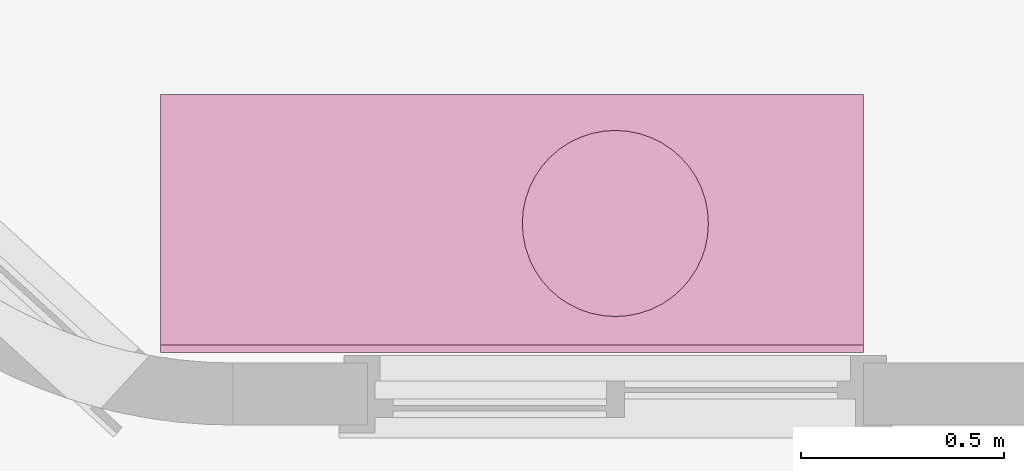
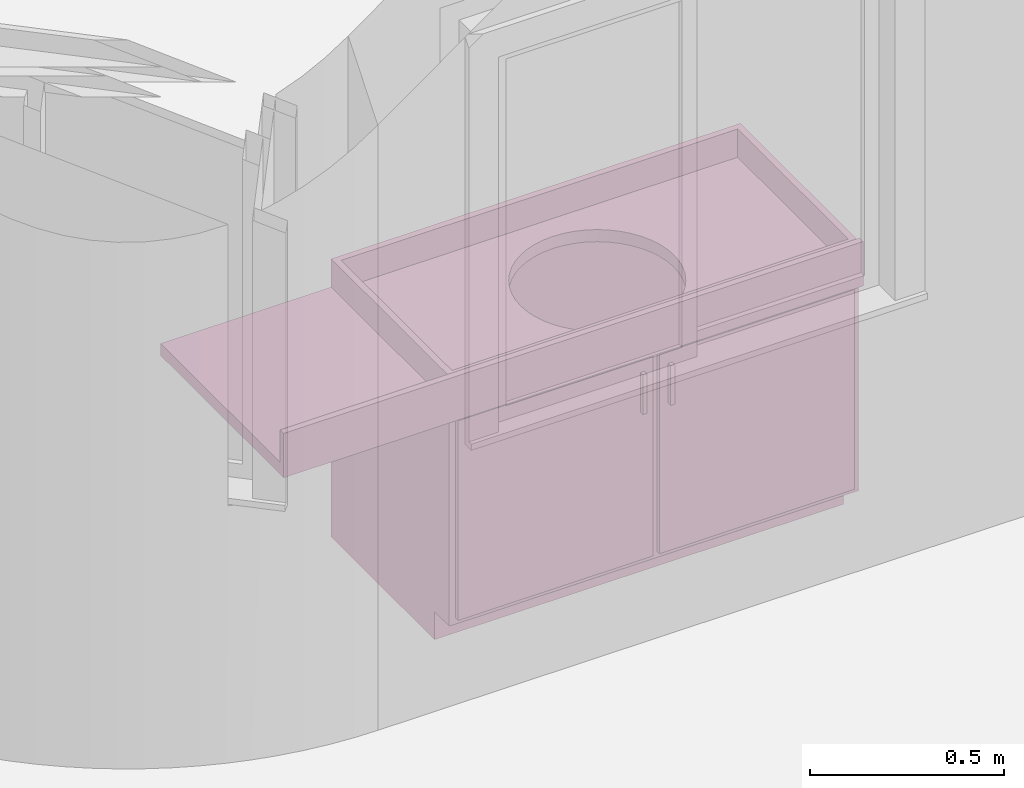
# One storey, part 21 of 28: 2 furnishings, 1 opening.
"""IFC2X3 building model written with IfcOpenShell, lengths in feet."""

from ifc_helpers import new_model, entity, si_unit, converted_unit, derived_unit, direction, frame, frame_2d, origin, place, context, subcontext, project, spatial, polyline, circle, outline, extrude, faceted_brep, source, transform, mapped, material, material_list, type_object, type_shapes, element, save


model = new_model("IFC2X3")

# Units and contexts
model_context = context("Model", 3, precision=0.0001, world=origin(), true_north=direction((6.12303176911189e-17, 1.0)))
body_context = subcontext(model_context, "Body", "Model", "MODEL_VIEW")
ifc_project = project(units=[converted_unit("LENGTHUNIT", "FOOT", entity("IfcRatioMeasure", 0.3048), si_unit("LENGTHUNIT", "METRE"), dimensions=[1, 0, 0, 0, 0, 0, 0]), converted_unit("AREAUNIT", "SQUARE FOOT", entity("IfcRatioMeasure", 0.09290304), si_unit("AREAUNIT", "SQUARE_METRE"), dimensions=[2, 0, 0, 0, 0, 0, 0]), converted_unit("VOLUMEUNIT", "CUBIC FOOT", entity("IfcRatioMeasure", 0.028316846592), si_unit("VOLUMEUNIT", "CUBIC_METRE"), dimensions=[3, 0, 0, 0, 0, 0, 0]), converted_unit("PLANEANGLEUNIT", "DEGREE", entity("IfcRatioMeasure", 0.0174532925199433), si_unit("PLANEANGLEUNIT", "RADIAN"), dimensions=[0, 0, 0, 0, 0, 0, 0]), si_unit("MASSUNIT", "GRAM", prefix="KILO"), derived_unit("MASSDENSITYUNIT", [(si_unit("MASSUNIT", "GRAM", prefix="KILO"), 1), (si_unit("LENGTHUNIT", "METRE"), -3)]), si_unit("TIMEUNIT", "SECOND"), si_unit("FREQUENCYUNIT", "HERTZ"), si_unit("THERMODYNAMICTEMPERATUREUNIT", "DEGREE_CELSIUS"), derived_unit("THERMALTRANSMITTANCEUNIT", [(si_unit("MASSUNIT", "GRAM", prefix="KILO"), 1), (si_unit("THERMODYNAMICTEMPERATUREUNIT", "KELVIN"), -1), (si_unit("TIMEUNIT", "SECOND"), -3)]), derived_unit("VOLUMETRICFLOWRATEUNIT", [(si_unit("LENGTHUNIT", "METRE"), 3), (si_unit("TIMEUNIT", "SECOND"), -1)]), si_unit("ELECTRICCURRENTUNIT", "AMPERE"), si_unit("ELECTRICVOLTAGEUNIT", "VOLT"), si_unit("POWERUNIT", "WATT"), si_unit("FORCEUNIT", "NEWTON"), si_unit("ILLUMINANCEUNIT", "LUX"), si_unit("LUMINOUSFLUXUNIT", "LUMEN"), si_unit("LUMINOUSINTENSITYUNIT", "CANDELA"), derived_unit("USERDEFINED", [(si_unit("MASSUNIT", "GRAM", prefix="KILO"), -1), (si_unit("LENGTHUNIT", "METRE"), -2), (si_unit("TIMEUNIT", "SECOND"), 3), (si_unit("LUMINOUSFLUXUNIT", "LUMEN"), 1)]), derived_unit("LINEARVELOCITYUNIT", [(si_unit("LENGTHUNIT", "METRE"), 1), (si_unit("TIMEUNIT", "SECOND"), -1)]), si_unit("PRESSUREUNIT", "PASCAL"), derived_unit("USERDEFINED", [(si_unit("LENGTHUNIT", "METRE"), -2), (si_unit("MASSUNIT", "GRAM", prefix="KILO"), 1), (si_unit("TIMEUNIT", "SECOND"), -2)])], contexts=[model_context])

# Site, building, storey
site_placement = place(None, origin())
site = spatial("IfcSite", under=ifc_project, at=site_placement, Name="表面", CompositionType="ELEMENT")
building_placement = place(site_placement, origin())
building = spatial("IfcBuilding", under=site, at=building_placement, CompositionType="ELEMENT")
storey_placement = place(building_placement, frame((0.0, 0.0, 10.0)))
storey = spatial("IfcBuildingStorey", under=building, at=storey_placement, Name="Level 2", CompositionType="ELEMENT", Elevation=9.99999999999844)

# Furnishing, opening
ifc_material_1 = material(Name="Counter Top")
furniture_type_1 = type_object("IfcFurnitureType", Name="24\" Depth", material=ifc_material_1)
shared_shape_1 = source(origin(), body_context, "Body", "SweptSolid", [
    extrude(outline(polyline([(-0.194444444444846, -0.715277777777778), (0.26388888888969, -0.715277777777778), (0.26388888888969, -0.652777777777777), (-0.0694444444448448, -0.652777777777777), (-0.0694444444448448, 1.36805555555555), (-0.194444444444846, 1.36805555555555), (-0.194444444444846, -0.715277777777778)])), frame((-4.35519125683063, -0.715277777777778, 2.65277777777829), z_axis=(1.0, 0.0, 0.0), x_axis=(0.0, 0.0, 1.0)), (0.0, 0.0, 1.0), 5.66666666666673),
])
type_shapes(furniture_type_1, [shared_shape_1])
furnishing_1_placement = place(storey_placement, frame((-29.3067710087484, -7.98427297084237, 0.343749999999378), z_axis=(0.0, 0.0, 1.0), x_axis=(-1.0, 0.0, 0.0)))
furnishing_1 = element("IfcFurnishingElement", 1, at=furnishing_1_placement, inside=storey, type_object=furniture_type_1, material=ifc_material_1, Name="Vanity Counter Top w Round Sink Hole:24\" Depth", ObjectType="24\" Depth", context=body_context, shape_type="MappedRepresentation", body=[
    mapped(shared_shape_1, transform((0.0, 0.0, 0.0), scale=1.0)),
])
opening_placement = place(storey_placement, frame((-29.3067710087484, -7.98427297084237, 10.3437499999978)))
element("IfcOpeningElement", 2, at=opening_placement, cuts=furnishing_1, Name="Vanity Counter Top w Round Sink Hole:24\" Depth:1", ObjectType="Opening", context=body_context, shape_type="SweptSolid", body=[
    extrude(circle(Radius=0.749999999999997, at=frame_2d((0.0, 1.11022302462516e-15), x_axis=(1.0, 0.0))), frame((2.35519125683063, 1.04166666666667, -7.54166666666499), z_axis=(0.0, 0.0, 1.0), x_axis=(-1.0, 0.0, 0.0)), (0.0, 0.0, 1.0), 0.125000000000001),
])

# Furnishing
ifc_material_2 = material(Name="Cabinets")
ifc_material_3 = material(Name="Cabinets - Handles")
ifc_material_list_1 = material_list([ifc_material_2, ifc_material_3])
ifc_material_list_2 = material_list([ifc_material_2, ifc_material_3])
furniture_type_2 = type_object("IfcFurnitureType", Name="48\"", material=ifc_material_list_2)
shared_shape_2 = source(origin(), body_context, "Body", "Brep", [
    faceted_brep([(1.99897540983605, -1.9375, 2.87500000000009), (1.99897540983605, -1.9375, 0.291666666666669), (-1.87602459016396, -1.9375, 0.291666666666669), (-1.87602459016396, -1.9375, 2.87500000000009), (-1.93852459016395, -2.0, 2.87500000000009), (2.06147540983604, -2.0, 2.87500000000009), (-1.93852459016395, -2.0, 0.291666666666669), (2.06147540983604, -2.0, 0.291666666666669), (-1.87602459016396, -1.75, 0.291666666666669), (-1.87602459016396, -0.062499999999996, 0.291666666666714), (-1.87602459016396, -0.062499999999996, 2.87500000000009), (-1.93852459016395, 0.0, 2.87500000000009), (-1.93852459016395, 0.0, 0.0), (-1.93852459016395, -1.75, 0.0), (-1.93852459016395, -1.75, 0.291666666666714), (1.99897540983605, -0.0624999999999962, 0.291666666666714), (1.99897540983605, -0.0624999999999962, 2.87500000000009), (2.06147540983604, 0.0, 2.87500000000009), (2.06147540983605, 0.0, 0.0), (1.99897540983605, -1.75, 0.291666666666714), (2.06147540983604, -1.75, 0.291666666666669), (2.06147540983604, -1.75, 0.0)], [[[0, 1, 2, 3]], [[0, 3, 4, 5]], [[5, 4, 6, 7]], [[2, 1, 7, 6]], [[3, 2, 8, 9, 10]], [[4, 3, 10, 11]], [[6, 4, 11, 12, 13, 14]], [[2, 6, 14, 8]], [[10, 9, 15, 16]], [[11, 10, 16, 17]], [[12, 11, 17, 18]], [[1, 0, 16, 15, 19]], [[0, 5, 17, 16]], [[5, 7, 20, 21, 18, 17]], [[7, 1, 19, 20]], [[8, 19, 15, 9]], [[18, 21, 13, 12]], [[13, 21, 20, 19, 8, 14]]]),
    faceted_brep([(0.217725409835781, -2.08333333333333, 2.29166666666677), (0.176058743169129, -2.08333333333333, 2.29166666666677), (0.176058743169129, -2.08333333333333, 1.88244716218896), (0.217725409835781, -2.08333333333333, 1.88244716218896), (0.217725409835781, -2.04166666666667, 2.29166666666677), (0.176058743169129, -2.04166666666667, 2.29166666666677), (0.176058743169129, -2.04166666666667, 1.88244716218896), (0.217725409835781, -2.04166666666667, 1.88244716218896)], [[[0, 1, 2, 3]], [[1, 0, 4, 5]], [[2, 1, 5, 6]], [[3, 2, 6, 7]], [[0, 3, 7, 4]], [[4, 7, 6, 5]]]),
    faceted_brep([(-0.053107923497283, -2.04166666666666, 2.29166666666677), (-0.053107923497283, -2.04166666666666, 1.88244716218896), (-0.0947745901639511, -2.04166666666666, 1.88244716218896), (-0.0947745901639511, -2.04166666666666, 2.29166666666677), (-0.0947745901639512, -2.08333333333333, 2.29166666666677), (-0.0531079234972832, -2.08333333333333, 2.29166666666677), (-0.0947745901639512, -2.08333333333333, 1.88244716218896), (-0.0531079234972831, -2.08333333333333, 1.88244716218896)], [[[0, 1, 2, 3]], [[4, 5, 0, 3]], [[6, 4, 3, 2]], [[7, 6, 2, 1]], [[5, 7, 1, 0]], [[5, 4, 6, 7]]]),
    faceted_brep([(1.99897540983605, -0.0624999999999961, 0.354166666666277), (-1.87602459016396, -0.062499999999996, 0.354166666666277), (-1.87602459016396, -1.9375, 0.354166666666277), (1.99897540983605, -1.9375, 0.354166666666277), (1.99897540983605, -0.062499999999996, 0.291666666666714), (1.99897540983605, -1.9375, 0.291666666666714), (-1.87602459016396, -1.9375, 0.291666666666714), (-1.87602459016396, -0.062499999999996, 0.291666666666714)], [[[0, 1, 2, 3]], [[4, 5, 6, 7]], [[1, 0, 4, 7]], [[2, 1, 7, 6]], [[3, 2, 6, 5]], [[0, 3, 5, 4]]]),
    faceted_brep([(1.99897540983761, -2.04166666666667, 2.81250000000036), (-1.87602459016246, -2.04166666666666, 2.81250000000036), (-1.87602459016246, -2.04166666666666, 2.47916666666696), (1.99897540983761, -2.04166666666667, 2.47916666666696), (1.99897540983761, -2.0, 2.81250000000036), (-1.87602459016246, -2.0, 2.81250000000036), (-1.87602459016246, -2.0, 2.47916666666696), (1.99897540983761, -2.0, 2.47916666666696)], [[[0, 1, 2, 3]], [[1, 0, 4, 5]], [[2, 1, 5, 6]], [[3, 2, 6, 7]], [[0, 3, 7, 4]], [[4, 7, 6, 5]]]),
    faceted_brep([(0.0302254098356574, -2.0, 2.41666666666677), (0.0302254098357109, -2.0, 0.354166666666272), (-1.87602459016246, -2.0, 0.354166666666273), (-1.87602459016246, -2.0, 2.41666666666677), (-1.87602459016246, -2.04166666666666, 2.41666666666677), (0.0302254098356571, -2.04166666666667, 2.41666666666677), (-1.87602459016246, -2.04166666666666, 0.354166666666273), (0.0302254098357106, -2.04166666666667, 0.354166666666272)], [[[0, 1, 2, 3]], [[4, 5, 0, 3]], [[6, 4, 3, 2]], [[7, 6, 2, 1]], [[5, 7, 1, 0]], [[5, 4, 6, 7]]]),
    faceted_brep([(0.092725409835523, -2.04166666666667, 2.41666666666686), (1.99897540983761, -2.04166666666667, 2.41666666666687), (1.99897540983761, -2.0, 2.41666666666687), (0.0927254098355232, -2.0, 2.41666666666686), (0.0927254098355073, -2.04166666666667, 0.354166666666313), (0.0927254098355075, -2.0, 0.354166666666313), (1.99897540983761, -2.04166666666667, 0.354166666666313), (1.99897540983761, -2.0, 0.354166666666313)], [[[0, 1, 2, 3]], [[4, 0, 3, 5]], [[6, 4, 5, 7]], [[1, 6, 7, 2]], [[2, 7, 5, 3]], [[1, 0, 4, 6]]]),
])
type_shapes(furniture_type_2, [shared_shape_2])
furnishing_2_placement = place(storey_placement, frame((-27.0130551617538, -5.90093963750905, 0.343749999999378)))
element("IfcFurnishingElement", 3, at=furnishing_2_placement, inside=storey, type_object=furniture_type_2, material=ifc_material_list_1, Name="Base Cabinet-Double Door Sink Unit:48\"", ObjectType="48\"", context=body_context, shape_type="MappedRepresentation", body=[
    mapped(shared_shape_2, transform((0.0, 0.0, 0.0), scale=1.0)),
])

save(model, "model.ifc")
